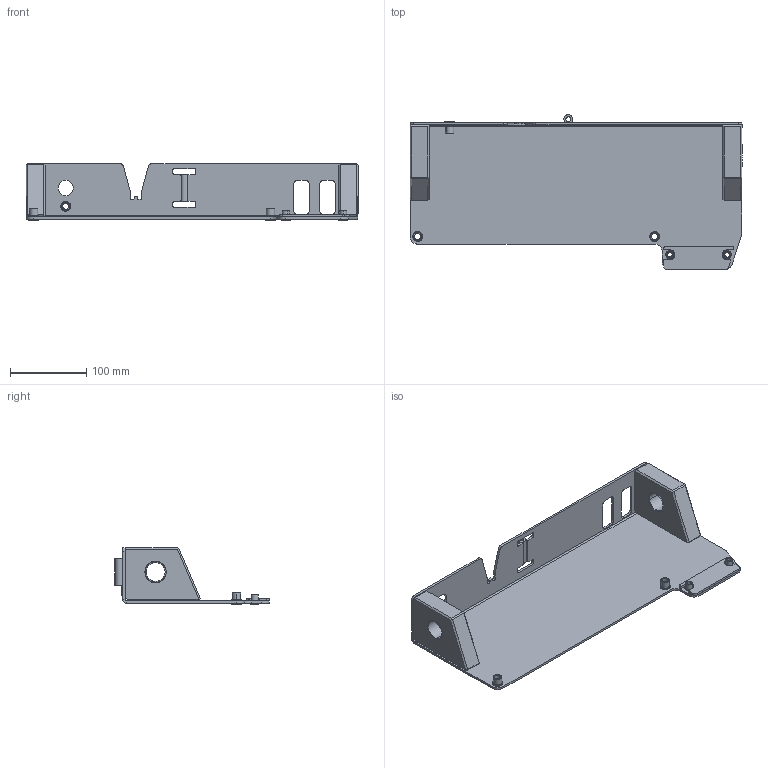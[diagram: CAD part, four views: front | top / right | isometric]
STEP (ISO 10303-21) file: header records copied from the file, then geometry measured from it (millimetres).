
FILE_DESCRIPTION (( 'STEP AP203' ), '1' );
FILE_NAME ('support_Défaut_sldprt.STEP', '2020-10-12T20:07:03', ( '' ), ( '' ), 'SwSTEP 2.0', 'SolidWorks 2016', '' );
FILE_SCHEMA (( 'CONFIG_CONTROL_DESIGN' ));
Length unit declared in the file: millimetre
Products named in the file (1): support_Défaut_sldprt
Bounding box: 435 x 202.47 x 74.5 mm (x, y, z)
Volume: 574558.1 mm3; surface area: 264093.2 mm2
Topology: 12 solids, 12 shells, 269 faces, 642 edges, 410 vertices
Faces by surface type: cylinder 129, plane 128, cone 12
Entity records: 7925 total; most frequent: DIRECTION 1444, CARTESIAN_POINT 1318, ORIENTED_EDGE 1276, EDGE_CURVE 638, AXIS2_PLACEMENT_3D 536, VERTEX_POINT 410, VECTOR 372, LINE 372
